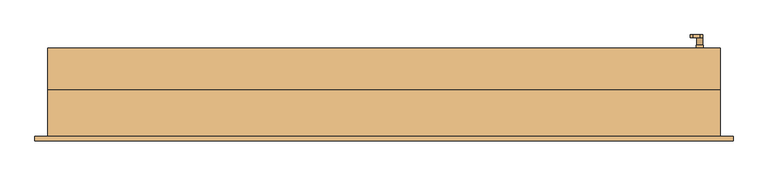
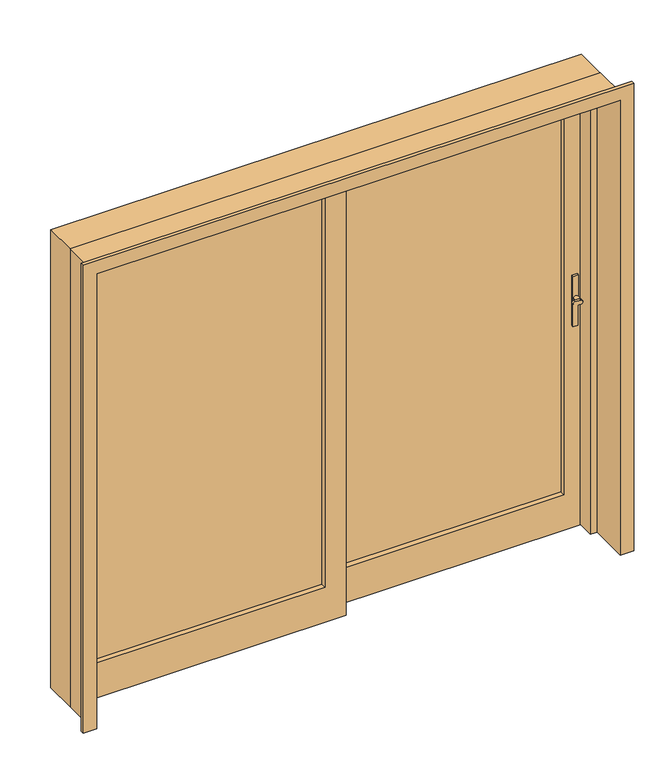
"""IFC4 building model written with IfcOpenShell, lengths in millimetres: door geometry, Balkongdor ST : 23x21 ST V1."""

from ifc_helpers import new_model, si_unit, point, frame, frame_2d, origin, place, context, project, spatial, polyline, circle_curve, trimmed, segment, composite_curve, outline, extrude, faceted_brep, source, transform, mapped, element, save


def door_adb3bcbd(model_context):
    return source(origin(), model_context, "Body", "SolidModel", [
        extrude(outline(composite_curve([segment(trimmed(circle_curve(frame_2d((1050.0, 1053.0)), 10.0), [point((1060.0, 1053.0))], [point((1050.0, 1043.0))], False, "CARTESIAN"), True, "CONTINUOUS"), segment(polyline([(1050.0, 1043.0), (950.0, 1043.0), (950.0, 1063.0), (1040.0, 1063.0), (1040.0, 1075.0)]), True, "CONTINUOUS"), segment(trimmed(circle_curve(frame_2d((1050.0, 1075.0)), 10.0), [point((1040.0, 1075.0))], [point((1060.0, 1075.0))], False, "CARTESIAN"), True, "CONTINUOUS"), segment(polyline([(1060.0, 1075.0), (1060.0, 1053.0)]), True, "CONTINUOUS")], self_intersect=False)), frame((0.0, 15.0, 0.0), z_axis=(0.0, 1.0, 0.0), x_axis=(0.0, 0.0, 1.0)), (0.0, 0.0, 1.0), 10.0),
        extrude(outline(composite_curve([segment(trimmed(circle_curve(frame_2d((1050.0, 1075.0)), 10.0), [point((1050.0, 1085.0))], [point((1050.0, 1065.0))], False, "CARTESIAN"), True, "CONTINUOUS"), segment(trimmed(circle_curve(frame_2d((1050.0, 1075.0)), 10.0), [point((1050.0, 1065.0))], [point((1050.0, 1085.0))], False, "CARTESIAN"), True, "CONTINUOUS")], self_intersect=False)), frame((0.0, 25.0, 0.0), z_axis=(0.0, 1.0, 0.0), x_axis=(0.0, 0.0, 1.0)), (0.0, 0.0, 1.0), 25.0),
        extrude(outline(polyline([(1063.0, 50.0), (1063.0, 60.0), (1087.0, 60.0), (1087.0, 50.0), (1063.0, 50.0)])), frame((0.0, 0.0, 1020.0), z_axis=(0.0, 0.0, 1.0), x_axis=(1.0, 0.0, 0.0)), (0.0, 0.0, 1.0), 130.0),
        extrude(outline(composite_curve([segment(trimmed(circle_curve(frame_2d((1050.0, 1053.0)), 10.0), [point((1060.0, 1053.0))], [point((1050.0, 1043.0))], False, "CARTESIAN"), True, "CONTINUOUS"), segment(polyline([(1050.0, 1043.0), (950.0, 1043.0), (950.0, 1063.0), (1040.0, 1063.0), (1040.0, 1075.0)]), True, "CONTINUOUS"), segment(trimmed(circle_curve(frame_2d((1050.0, 1075.0)), 10.0), [point((1040.0, 1075.0))], [point((1060.0, 1075.0))], False, "CARTESIAN"), True, "CONTINUOUS"), segment(polyline([(1060.0, 1075.0), (1060.0, 1053.0)]), True, "CONTINUOUS")], self_intersect=False)), frame((0.0, 165.0, 0.0), z_axis=(0.0, 1.0, 0.0), x_axis=(0.0, 0.0, 1.0)), (0.0, 0.0, 1.0), 10.0),
        extrude(outline(composite_curve([segment(trimmed(circle_curve(frame_2d((1050.0, 1075.0)), 10.0), [point((1050.0, 1085.0))], [point((1050.0, 1065.0))], False, "CARTESIAN"), True, "CONTINUOUS"), segment(trimmed(circle_curve(frame_2d((1050.0, 1075.0)), 10.0), [point((1050.0, 1065.0))], [point((1050.0, 1085.0))], False, "CARTESIAN"), True, "CONTINUOUS")], self_intersect=False)), frame((0.0, 140.0, 0.0), z_axis=(0.0, 1.0, 0.0), x_axis=(0.0, 0.0, 1.0)), (0.0, 0.0, 1.0), 25.0),
        extrude(outline(polyline([(1063.0, 140.0), (1087.0, 140.0), (1087.0, 130.0), (1063.0, 130.0), (1063.0, 140.0)])), frame((0.0, 0.0, 1020.0), z_axis=(0.0, 0.0, 1.0), x_axis=(1.0, 0.0, 0.0)), (0.0, 0.0, 1.0), 130.0),
        extrude(outline(polyline([(-45.0, 9.0), (-1030.0, 9.0), (-1030.0, 33.0), (-45.0, 33.0), (-45.0, 9.0)])), frame((0.0, 0.0, 160.0), z_axis=(0.0, 0.0, 1.0), x_axis=(1.0, 0.0, 0.0)), (0.0, 0.0, 1.0), 1813.0),
        extrude(outline(polyline([(2043.0, 45.0), (2043.0, -1100.0), (0.0, -1100.0), (0.0, 45.0), (2043.0, 45.0)]), holes=[polyline([(160.0, -1030.0), (1973.0, -1030.0), (1973.0, -45.0), (160.0, -45.0), (160.0, -1030.0)])]), frame((0.0, -14.0, 0.0), z_axis=(0.0, 1.0, 0.0), x_axis=(0.0, 0.0, 1.0)), (0.0, 0.0, 1.0), 70.0),
        extrude(outline(polyline([(45.0, 107.0), (1030.0, 107.0), (1030.0, 83.0), (45.0, 83.0), (45.0, 107.0)])), frame((0.0, 0.0, 160.0), z_axis=(0.0, 0.0, 1.0), x_axis=(1.0, 0.0, 0.0)), (0.0, 0.0, 1.0), 1813.0),
        extrude(outline(polyline([(0.0, -45.0), (0.0, 1100.0), (2043.0, 1100.0), (2043.0, -45.0), (0.0, -45.0)]), holes=[polyline([(160.0, 1030.0), (160.0, 45.0), (1973.0, 45.0), (1973.0, 1030.0), (160.0, 1030.0)])]), frame((0.0, 60.0, 0.0), z_axis=(0.0, 1.0, 0.0), x_axis=(0.0, 0.0, 1.0)), (0.0, 0.0, 1.0), 70.0),
        extrude(outline(polyline([(0.0, 1100.0), (0.0, 1145.0), (2088.0, 1145.0), (2088.0, -1145.0), (0.0, -1145.0), (0.0, -1100.0), (2043.0, -1100.0), (2043.0, 1100.0), (0.0, 1100.0)])), frame((0.0, -14.0, 0.0), z_axis=(0.0, 1.0, 0.0), x_axis=(0.0, 0.0, 1.0)), (0.0, 0.0, 1.0), 144.0),
        faceted_brep([(-1145.0, -172.0, 0.0), (-1145.0, -14.0, 0.0), (-1130.0, -14.0, 0.0), (-1130.0, -187.0, 0.0), (-1188.0, -187.0, 0.0), (-1188.0, -172.0, 0.0), (-1145.0, -172.0, 2090.0), (-1145.0, -14.0, 2090.0), (1145.0, -14.0, 2090.0), (1145.0, -14.0, 0.0), (1130.0, -14.0, 0.0), (1130.0, -14.0, 2075.0), (-1130.0, -14.0, 2075.0), (-1130.0, -187.0, 2075.0), (1130.0, -187.0, 2075.0), (1130.0, -187.0, 0.0), (1188.0, -187.0, 0.0), (1188.0, -187.0, 2133.0), (-1188.0, -187.0, 2133.0), (-1188.0, -172.0, 2133.0), (1188.0, -172.0, 2133.0), (1188.0, -172.0, 0.0), (1145.0, -172.0, 0.0), (1145.0, -172.0, 2090.0)], [[[0, 1, 2, 3, 4, 5]], [[1, 0, 6, 7]], [[2, 1, 7, 8, 9, 10, 11, 12]], [[3, 2, 12, 13]], [[4, 3, 13, 14, 15, 16, 17, 18]], [[5, 4, 18, 19]], [[0, 5, 19, 20, 21, 22, 23, 6]], [[8, 23, 22, 9]], [[22, 21, 16, 15, 10, 9]], [[14, 11, 10, 15]], [[20, 17, 16, 21]], [[7, 6, 23, 8]], [[13, 12, 11, 14]], [[19, 18, 17, 20]]]),
    ])


if __name__ == "__main__":
    model = new_model("IFC4")
    model_context = context("Model", 3, world=origin())
    ifc_project = project(units=[si_unit("LENGTHUNIT", "METRE", prefix="MILLI")], contexts=[model_context])
    site = spatial("IfcSite", under=ifc_project)
    building = spatial("IfcBuilding", under=site)
    placement = place(None, origin())
    door_shape = door_adb3bcbd(model_context)
    element("IfcDoor", 1, ObjectType="Balkongdor ST : 23x21 ST V1", at=placement, inside=building, context=model_context, shape_type="MappedRepresentation", body=[
        mapped(door_shape, transform((0.0, 0.0, 0.0), x_axis=(1.0, 0.0, 0.0), y_axis=(0.0, 1.0, 0.0), z_axis=(0.0, 0.0, 1.0))),
    ])
    save(model, "model.ifc")
